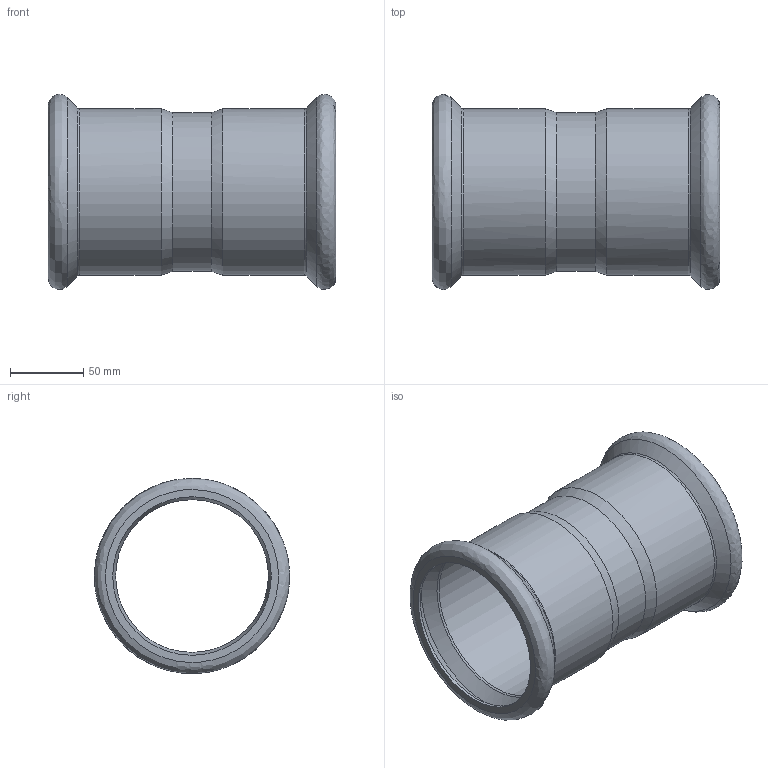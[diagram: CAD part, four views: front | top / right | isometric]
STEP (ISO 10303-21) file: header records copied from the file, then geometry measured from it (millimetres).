
FILE_DESCRIPTION(('FreeCAD Model'),'2;1');
FILE_NAME('Open CASCADE Shape Model','2025-10-20T15:02:35',('Author'),( ''),'Open CASCADE STEP processor 7.8','FreeCAD','Unknown');
FILE_SCHEMA(('AUTOMOTIVE_DESIGN { 1 0 10303 214 1 1 1 1 }'));
Length unit declared in the file: millimetre
Products named in the file (1): Solido1
Bounding box: 196 x 132.99 x 132.97 mm (x, y, z)
Volume: 156358.2 mm3; surface area: 158198.3 mm2
Topology: 1 solids, 1 shells, 28 faces, 96 edges, 72 vertices
Faces by surface type: bspline 28
Entity records: 1541 total; most frequent: CARTESIAN_POINT 1025, ORIENTED_EDGE 192, EDGE_CURVE 96, VERTEX_POINT 72, FACE_BOUND 32, EDGE_LOOP 32, ADVANCED_FACE 28, B_SPLINE_CURVE_WITH_KNOTS 16
